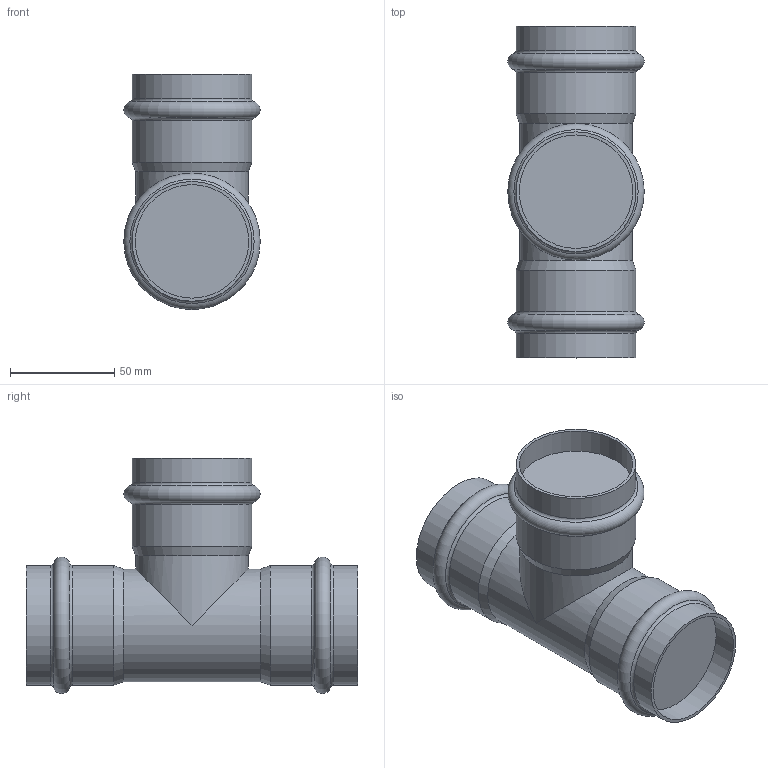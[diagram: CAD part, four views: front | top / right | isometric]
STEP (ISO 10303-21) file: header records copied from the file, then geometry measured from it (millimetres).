
FILE_DESCRIPTION(('STEP AP203'), '1');
FILE_NAME('VTi.931.I.545454', '', ('UNSPECIFIED'), ('UNSPECIFIED'), 'C3D Converter', 'C3D Toolkit', '');
FILE_SCHEMA(('CONFIG_CONTROL_DESIGN'));
Length unit declared in the file: millimetre
Bounding box: 65.38 x 159 x 112.69 mm (x, y, z)
Volume: 467509.2 mm3; surface area: 52644.6 mm2
Topology: 1 solids, 1 shells, 29 faces, 55 edges, 31 vertices
Faces by surface type: cylinder 11, torus 9, plane 6, cone 3
Full cylindrical faces by diameter (mm): 54 x2, 54.4 x3, 57.4 x6
Entity records: 640 total; most frequent: DIRECTION 114, CARTESIAN_POINT 104, ORIENTED_EDGE 62, AXIS2_PLACEMENT_3D 57, EDGE_LOOP 56, FACE_OUTER_BOUND 45, EDGE_CURVE 31, VERTEX_POINT 31
